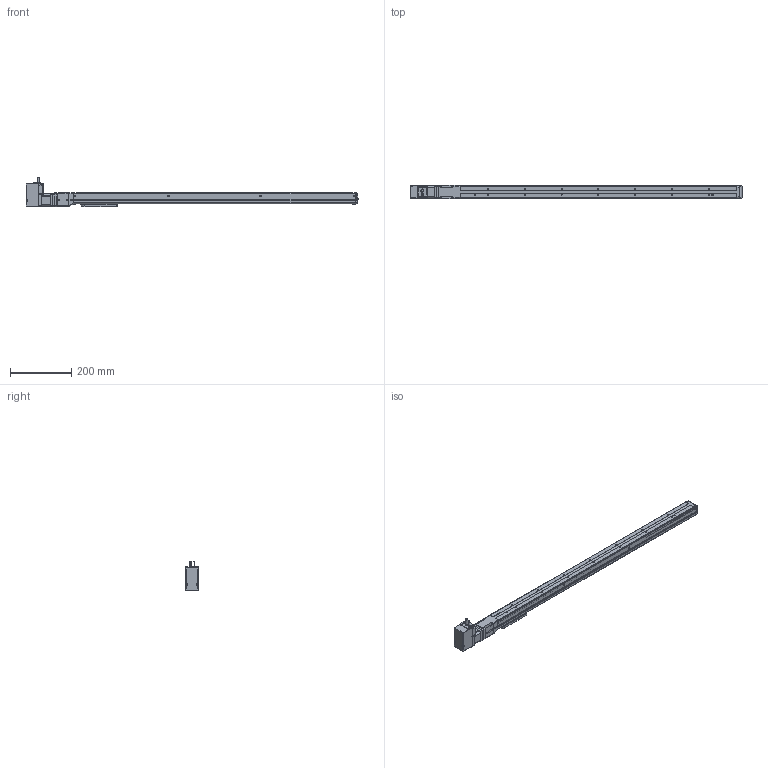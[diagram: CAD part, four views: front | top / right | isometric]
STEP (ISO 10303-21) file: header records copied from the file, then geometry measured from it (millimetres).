
FILE_DESCRIPTION(('FreeCAD Model'),'2;1');
FILE_NAME('Open CASCADE Shape Model','2023-08-01T18:23:08',('Author'),( ''),'Open CASCADE STEP processor 7.5','FreeCAD','Unknown');
FILE_SCHEMA(('AUTOMOTIVE_DESIGN { 1 0 10303 214 1 1 1 1 }'));
Length unit declared in the file: millimetre
Products named in the file (20): RCB0411; Shapes; Shapes001; Shapes002; Shapes003; Shapes004; Shapes005; Shapes006; Shapes007; Shapes008; Shapes009; Shapes010; Shapes011; Shapes012; Shapes013; KSF4-10-0750-0-AR(0); KSF4---(Cover); KSF4-AR---(Motor bracket); KSF4-10-0750---(slider); KSF4-10-0750-0-AR-(07500ARNo0)---(body)
Assembly tree (19 placements, depth 3):
  RCB0411
    Shapes
    Shapes001
    Shapes002
    Shapes003
    Shapes004
    Shapes005
    Shapes006
    Shapes007
    Shapes008
    Shapes009
    Shapes010
    Shapes011
    Shapes012
    Shapes013
    KSF4-10-0750-0-AR(0)
      KSF4---(Cover)
      KSF4-AR---(Motor bracket)
      KSF4-10-0750---(slider)
      KSF4-10-0750-0-AR-(07500ARNo0)---(body)
Bounding box: 1082 x 45.4 x 97.64 mm (x, y, z)
Volume: 1709631.3 mm3; surface area: 318063.5 mm2
Topology: 18 solids, 18 shells, 1301 faces, 3354 edges, 2188 vertices
Faces by surface type: plane 719, cylinder 432, cone 68, torus 53, bspline 19, revolution 6, sphere 4
Full cylindrical faces by diameter (mm): 2.113 x8, 2.459 x3, 3 x6, 3.242 x4, 3.4 x18, 4 x3, 4.5 x2, 5.5 x8, 6 x1, 6.5 x20, 8 x1, 12 x1, 22 x1, 28 x1, 30 x2
Entity records: 94882 total; most frequent: CARTESIAN_POINT 27154, DIRECTION 12729, LINE 7559, VECTOR 7559, ORIENTED_EDGE 6672, PCURVE 6672, DEFINITIONAL_REPRESENTATION 6672, EDGE_CURVE 3336
